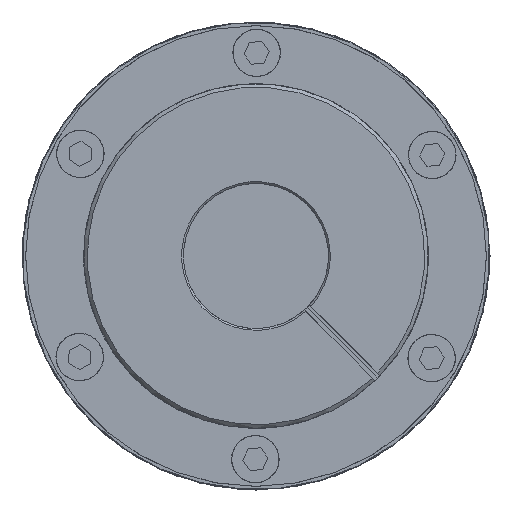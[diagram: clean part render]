
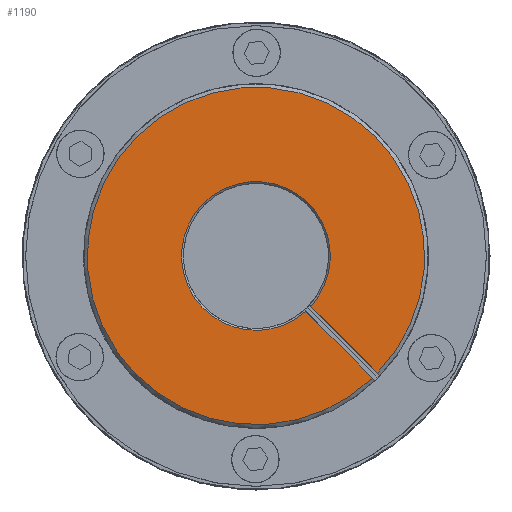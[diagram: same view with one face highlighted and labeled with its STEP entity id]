
A CAD part, left-side view. The second image highlights one B-rep face of the part: STEP entity #1190.
In plain terms, the highlighted planar face has unit normal (-1, 0, 0).
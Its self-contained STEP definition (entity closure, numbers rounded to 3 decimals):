
#1190 = ADVANCED_FACE( '', ( #2328 ), #2329, .T. );
#2328 = FACE_OUTER_BOUND( '', #3346, .T. );
#2329 = PLANE( '', #3347 );
#3346 = EDGE_LOOP( '', ( #5875, #5876, #5877, #5878 ) );
#3347 = AXIS2_PLACEMENT_3D( '', #5879, #5880, #5881 );
#5875 = ORIENTED_EDGE( '', *, *, #6805, .T. );
#5876 = ORIENTED_EDGE( '', *, *, #6802, .T. );
#5877 = ORIENTED_EDGE( '', *, *, #6800, .T. );
#5878 = ORIENTED_EDGE( '', *, *, #6787, .T. );
#5879 = CARTESIAN_POINT( '', ( -73.5, 0., 0. ) );
#5880 = DIRECTION( '', ( -1., 0., 0. ) );
#5881 = DIRECTION( '', ( 0., 0., 1. ) );
#6787 = EDGE_CURVE( '', #8105, #8102, #8106, .T. );
#6800 = EDGE_CURVE( '', #8122, #8105, #8123, .T. );
#6802 = EDGE_CURVE( '', #8125, #8122, #8126, .T. );
#6805 = EDGE_CURVE( '', #8102, #8125, #8130, .F. );
#8102 = VERTEX_POINT( '', #10347 );
#8105 = VERTEX_POINT( '', #10353 );
#8106 = LINE( '', #10354, #10355 );
#8122 = VERTEX_POINT( '', #10378 );
#8123 = CIRCLE( '', #10379, 46.5 );
#8125 = VERTEX_POINT( '', #10384 );
#8126 = LINE( '', #10385, #10386 );
#8130 = CIRCLE( '', #10393, 20.5 );
#10347 = CARTESIAN_POINT( '', ( -73.5, -20.476, -1. ) );
#10353 = CARTESIAN_POINT( '', ( -73.5, -46.489, -1. ) );
#10354 = CARTESIAN_POINT( '', ( -73.5, 0., -1. ) );
#10355 = VECTOR( '', #11785, 1000. );
#10378 = CARTESIAN_POINT( '', ( -73.5, -46.489, 1. ) );
#10379 = AXIS2_PLACEMENT_3D( '', #11811, #11812, #11813 );
#10384 = CARTESIAN_POINT( '', ( -73.5, -20.476, 1. ) );
#10385 = CARTESIAN_POINT( '', ( -73.5, 0., 1. ) );
#10386 = VECTOR( '', #11814, 1000. );
#10393 = AXIS2_PLACEMENT_3D( '', #11818, #11819, #11820 );
#11785 = DIRECTION( '', ( 0., 1., 0. ) );
#11811 = CARTESIAN_POINT( '', ( -73.5, 0., 0. ) );
#11812 = DIRECTION( '', ( -1., 0., 0. ) );
#11813 = DIRECTION( '', ( 0., -1., 0. ) );
#11814 = DIRECTION( '', ( 0., -1., 0. ) );
#11818 = CARTESIAN_POINT( '', ( -73.5, 0., 0. ) );
#11819 = DIRECTION( '', ( -1., 0., 0. ) );
#11820 = DIRECTION( '', ( 0., -1., 0. ) );
